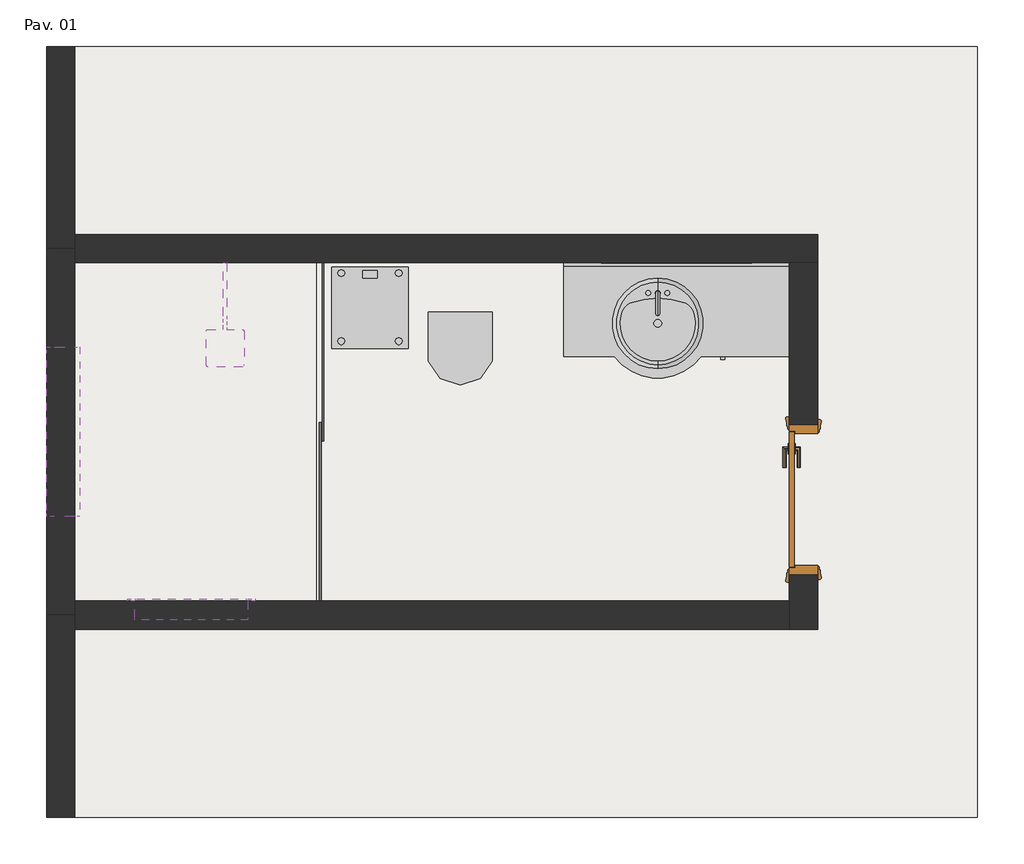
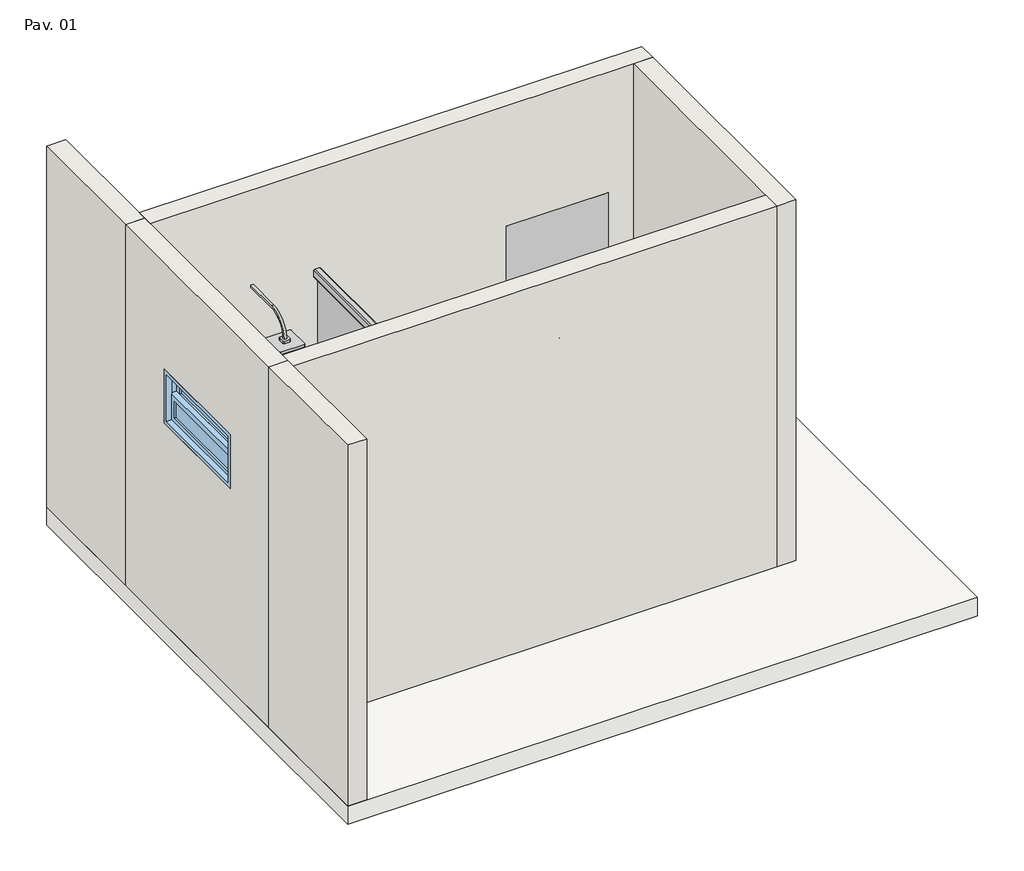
# One storey, incomplete: 6 walls, 4 proxies, 2 flow terminals, 2 slabs, 1 door, 1 furniture element, 1 window.
"""IFC4 building model written with IfcOpenShell, lengths in millimetres."""

from ifc_helpers import new_model, si_unit, frame, origin, place, context, project, spatial, polyline, outline, extrude, faceted_brep, transform, mapped, element, save
from components import specialty_equipment_e6a92e30, generic_models_6948a14a, generic_models_0adf56fe, box_banheiro_box_banheiro_1_80m_x_2_10m_d8e99c4d, porta_simples_0_70_x_2_10_61f2850b, flow_terminal_424f6e85, type_1_46168cfa, l500xr700_7699340b, janela_0_90_x_0_45_486027e7

model = new_model("IFC4")

# Units and contexts
model_context = context("Model", 3, world=origin())
ifc_project = project(units=[si_unit("LENGTHUNIT", "METRE", prefix="MILLI")], contexts=[model_context])

# Site, building, storey
site = spatial("IfcSite", under=ifc_project)
building = spatial("IfcBuilding", under=site)
storey = spatial("IfcBuildingStorey", under=building, Name="Pav. 01", Elevation=0.0)

# Proxies
placement = place(None, origin())
specialty_equipment_shape = specialty_equipment_e6a92e30(model_context)
element("IfcBuildingElementProxy", 1, Name="Balança de Banheiro : Bathroom scales", ObjectType="Balança de Banheiro : Bathroom scales", at=placement, inside=storey, context=model_context, shape_type="MappedRepresentation", body=[
    mapped(specialty_equipment_shape, transform((-777.3409713, 260.9958364, 0.0), x_axis=(1.0, 0.0, 0.0), y_axis=(0.0, 1.0, 0.0), z_axis=(0.0, 0.0, 1.0))),
])
generic_models_shape = generic_models_6948a14a(model_context)
element("IfcBuildingElementProxy", 2, Name="Espelho 01 : Espelho 0,80 x 1", ObjectType="Espelho 01 : Espelho 0,80 x 1", at=placement, inside=storey, context=model_context, shape_type="MappedRepresentation", body=[
    mapped(generic_models_shape, transform((1489.363349, 575.9958364, -406.7594958), x_axis=(-1.0, 0.0, 0.0), y_axis=(0.0, -1.0, 0.0), z_axis=(0.0, 0.0, 1.0))),
])
generic_models_2_shape = generic_models_0adf56fe(model_context)
element("IfcBuildingElementProxy", 3, Name="Nicho Banheiro : Nicho 0,60 x 0,80", ObjectType="Nicho Banheiro : Nicho 0,60 x 0,80", at=placement, inside=storey, context=model_context, shape_type="MappedRepresentation", body=[
    mapped(generic_models_2_shape, transform((-1852.3409713, -1374.0041636, -176.9003653), x_axis=(1.0, 0.0, 0.0), y_axis=(0.0, 1.0, 0.0), z_axis=(0.0, 0.0, 1.0))),
])
box_banheiro_box_banheiro_1_80m_x_2_10m_shape = box_banheiro_box_banheiro_1_80m_x_2_10m_d8e99c4d(model_context)
element("IfcBuildingElementProxy", 4, Name="Box Banheiro : Box Banheiro 1,80m x 2,10m", ObjectType="Box Banheiro : Box Banheiro 1,80m x 2,10m", at=placement, inside=storey, context=model_context, shape_type="MappedRepresentation", body=[
    mapped(box_banheiro_box_banheiro_1_80m_x_2_10m_shape, transform((-1034.8409713, -399.0041636, 0.0), x_axis=(0.0, 1.0000000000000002, 0.0), y_axis=(-1.0000000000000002, 0.0, 0.0), z_axis=(0.0, 0.0, 1.0))),
])

# Door
porta_simples_0_70_x_2_10_shape = porta_simples_0_70_x_2_10_61f2850b(model_context)
element("IfcDoor", 5, ObjectType="Porta Simples : 0,70 x 2,10", at=placement, inside=storey, context=model_context, shape_type="MappedRepresentation", body=[
    mapped(porta_simples_0_70_x_2_10_shape, transform((1527.6590287, -634.0041636, 0.0), x_axis=(0.0, -1.0, 0.0), y_axis=(1.0, 0.0, 0.0), z_axis=(0.0, 0.0, 1.0))),
])

# Flow terminals
flow_terminal_shape = flow_terminal_424f6e85(model_context)
element("IfcFlowTerminal", 6, ObjectType="Deca_Shared_Assento_P.707 : Assento termofixo slow close e easy clean - Branco GE17", at=placement, inside=storey, context=model_context, shape_type="MappedRepresentation", body=[
    mapped(flow_terminal_shape, transform((-297.4306038, 238.4948233, 405.0), x_axis=(1.0, 0.0, 0.0), y_axis=(0.0, 0.0, 1.0), z_axis=(0.0, -1.0, 0.0))),
])
type_1_shape = type_1_46168cfa(model_context)
element("IfcFlowTerminal", 7, ObjectType="Chuveiro Quadrado 20mm : Type 1", at=placement, inside=storey, context=model_context, shape_type="MappedRepresentation", body=[
    mapped(type_1_shape, transform((-1422.3409713, 425.9958364, 0.0), x_axis=(-1.0, 0.0, 0.0), y_axis=(0.0, -1.0, 0.0), z_axis=(0.0, 0.0, 1.0))),
])

# Furniture
l500xr700_shape = l500xr700_7699340b(model_context)
element("IfcFurniture", 8, ObjectType="Gabinete Banheiro Vanity 2621 : L500xR700", at=placement, inside=storey, context=model_context, shape_type="MappedRepresentation", body=[
    mapped(l500xr700_shape, transform((657.7213237, 500.9958364, 0.0), x_axis=(1.0, 0.0, 0.0), y_axis=(0.0, 1.0, 0.0), z_axis=(0.0, 0.0, 1.0))),
])

# Slabs
element("IfcSlab", 9, ObjectType="Piso 0,12", at=placement, inside=storey, context=model_context, shape_type="SweptSolid", body=[
    extrude(outline(polyline([(-1062.3409713, 500.9958364), (-1062.3409713, -1299.0041636), (-2347.3409713, -1299.0041636), (-2347.3409713, 500.9958364), (-1062.3409713, 500.9958364)])), frame((0.0, 0.0, -150.0), z_axis=(0.0, 0.0, 1.0), x_axis=(1.0, 0.0, 0.0)), (0.0, 0.0, 1.0), 120.0),
])
element("IfcSlab", 10, ObjectType="Piso 0,15m", at=placement, inside=storey, context=model_context, shape_type="SweptSolid", body=[
    extrude(outline(polyline([(2452.6590287, 1650.9958364), (2452.6590287, -2449.0041636), (-2497.3409713, -2449.0041636), (-2497.3409713, 1650.9958364), (2452.6590287, 1650.9958364)]), holes=[polyline([(-1062.3409713, 500.9958364), (-2347.3409713, 500.9958364), (-2347.3409713, -1299.0041636), (-1062.3409713, -1299.0041636), (-1062.3409713, 500.9958364)])]), frame((0.0, 0.0, -150.0), z_axis=(0.0, 0.0, 1.0), x_axis=(1.0, 0.0, 0.0)), (0.0, 0.0, 1.0), 150.0),
])

# Walls
element("IfcWall", 11, ObjectType="Parde 0,15m - Banheiro", at=placement, inside=storey, context=model_context, shape_type="Brep", body=[
    faceted_brep([(-2347.3409713, -1374.0041636, 0.0), (-2347.3409713, -1299.0041636, 0.0), (-2347.3409713, 500.9958364, 0.0), (-2347.3409713, 575.9958364, 0.0), (-2347.3409713, 575.9958364, 3000.0), (-2347.3409713, 500.9958364, 3000.0), (-2347.3409713, -1299.0041636, 3000.0), (-2347.3409713, -1374.0041636, 3000.0), (-2347.3409713, -849.0041636, 2119.05), (-2347.3409713, 50.9958364, 2119.05), (-2347.3409713, 50.9958364, 1669.05), (-2347.3409713, -849.0041636, 1669.05), (-2497.3409713, -1374.0041636, 0.0), (-2497.3409713, -1374.0041636, 3000.0), (-2497.3409713, 575.9958364, 3000.0), (-2497.3409713, 575.9958364, 0.0), (-2497.3409713, -849.0041636, 2119.05), (-2497.3409713, -849.0041636, 1669.05), (-2497.3409713, 50.9958364, 1669.05), (-2497.3409713, 50.9958364, 2119.05)], [[[0, 1, 2, 3, 4, 5, 6, 7], [8, 9, 10, 11]], [[12, 13, 14, 15], [16, 17, 18, 19]], [[3, 2, 1, 0, 12, 15]], [[4, 3, 15, 14]], [[7, 6, 5, 4, 14, 13]], [[0, 7, 13, 12]], [[17, 16, 8, 11]], [[18, 17, 11, 10]], [[19, 18, 10, 9]], [[16, 19, 9, 8]]]),
])
element("IfcWall", 12, ObjectType="Parde 0,15m - Banheiro", at=placement, inside=storey, context=model_context, shape_type="Brep", body=[
    faceted_brep([(-2347.3409713, 500.9958364, 0.0), (1452.6590287, 500.9958364, 0.0), (1602.6590287, 500.9958364, 0.0), (1602.6590287, 500.9958364, 3000.0), (1452.6590287, 500.9958364, 3000.0), (-2347.3409713, 500.9958364, 3000.0), (-2347.3409713, 650.9958364, 0.0), (-2347.3409713, 650.9958364, 3000.0), (1602.6590287, 650.9958364, 3000.0), (1602.6590287, 650.9958364, 0.0), (-2347.3409713, 575.9958364, 0.0), (-2347.3409713, 575.9958364, 3000.0)], [[[0, 1, 2, 3, 4, 5]], [[6, 7, 8, 9]], [[2, 1, 0, 10, 6, 9]], [[5, 4, 3, 8, 7, 11]], [[3, 2, 9, 8]], [[0, 5, 11, 7, 6, 10]]]),
])
element("IfcWall", 13, ObjectType="Parde 0,15m - Banheiro", at=placement, inside=storey, context=model_context, shape_type="Brep", body=[
    faceted_brep([(1452.6590287, -1449.0041636, 3000.0), (1452.6590287, -1299.0041636, 3000.0), (1452.6590287, 500.9958364, 3000.0), (1452.6590287, 500.9958364, 0.0), (1452.6590287, -359.0041636, 0.0), (1452.6590287, -359.0041636, 2150.0), (1452.6590287, -1159.0041636, 2150.0), (1452.6590287, -1159.0041636, 0.0), (1452.6590287, -1299.0041636, 0.0), (1452.6590287, -1449.0041636, 0.0), (1602.6590287, 500.9958364, 3000.0), (1602.6590287, -1449.0041636, 3000.0), (1602.6590287, -1449.0041636, 0.0), (1602.6590287, -1159.0041636, 0.0), (1602.6590287, -1159.0041636, 2150.0), (1602.6590287, -359.0041636, 2150.0), (1602.6590287, -359.0041636, 0.0), (1602.6590287, 500.9958364, 0.0)], [[[0, 1, 2, 3, 4, 5, 6, 7, 8, 9]], [[10, 11, 12, 13, 14, 15, 16, 17]], [[3, 17, 16, 4]], [[12, 9, 8, 7, 13]], [[2, 1, 0, 11, 10]], [[3, 2, 10, 17]], [[0, 9, 12, 11]], [[15, 5, 4, 16]], [[6, 14, 13, 7]], [[5, 15, 14, 6]]]),
])
element("IfcWall", 14, ObjectType="Parde 0,15m - Banheiro", at=placement, inside=storey, context=model_context, shape_type="Brep", body=[
    faceted_brep([(1452.6590287, -1299.0041636, 0.0), (-2347.3409713, -1299.0041636, 0.0), (-2347.3409713, -1299.0041636, 3000.0), (1452.6590287, -1299.0041636, 3000.0), (-2027.3409713, -1299.0041636, 2040.0), (-2027.3409713, -1299.0041636, 1240.0), (-1427.3409713, -1299.0041636, 1240.0), (-1427.3409713, -1299.0041636, 2040.0), (1452.6590287, -1449.0041636, 0.0), (1452.6590287, -1449.0041636, 3000.0), (-2347.3409713, -1449.0041636, 3000.0), (-2347.3409713, -1449.0041636, 0.0), (-2347.3409713, -1374.0041636, 0.0), (-2347.3409713, -1374.0041636, 3000.0), (-2027.3409713, -1399.0041636, 2040.0), (-1427.3409713, -1399.0041636, 2040.0), (-1427.3409713, -1399.0041636, 1240.0), (-2027.3409713, -1399.0041636, 1240.0)], [[[0, 1, 2, 3], [4, 5, 6, 7]], [[8, 9, 10, 11]], [[1, 0, 8, 11, 12]], [[3, 2, 13, 10, 9]], [[0, 3, 9, 8]], [[2, 1, 12, 11, 10, 13]], [[14, 15, 16, 17]], [[14, 17, 5, 4]], [[17, 16, 6, 5]], [[16, 15, 7, 6]], [[15, 14, 4, 7]]]),
])
element("IfcWall", 15, ObjectType="Parde 0,15m", at=placement, inside=storey, context=model_context, shape_type="Brep", body=[
    faceted_brep([(-2497.3409713, -1374.0041636, 0.0), (-2497.3409713, -2449.0041636, 0.0), (-2497.3409713, -2449.0041636, 3000.0), (-2497.3409713, -1374.0041636, 3000.0), (-2347.3409713, -1374.0041636, 0.0), (-2347.3409713, -1374.0041636, 3000.0), (-2347.3409713, -1449.0041636, 3000.0), (-2347.3409713, -2449.0041636, 3000.0), (-2347.3409713, -2449.0041636, 0.0), (-2347.3409713, -1449.0041636, 0.0)], [[[0, 1, 2, 3]], [[4, 5, 6, 7, 8, 9]], [[1, 0, 4, 9, 8]], [[2, 1, 8, 7]], [[3, 2, 7, 6, 5]], [[0, 3, 5, 4]]]),
])
element("IfcWall", 16, ObjectType="Parde 0,15m", at=placement, inside=storey, context=model_context, shape_type="Brep", body=[
    faceted_brep([(-2497.3409713, 1650.9958364, 0.0), (-2497.3409713, 575.9958364, 0.0), (-2497.3409713, 575.9958364, 3000.0), (-2497.3409713, 1650.9958364, 3000.0), (-2347.3409713, 1650.9958364, 0.0), (-2347.3409713, 1650.9958364, 3000.0), (-2347.3409713, 650.9958364, 3000.0), (-2347.3409713, 575.9958364, 3000.0), (-2347.3409713, 575.9958364, 0.0), (-2347.3409713, 650.9958364, 0.0)], [[[0, 1, 2, 3]], [[4, 5, 6, 7, 8, 9]], [[1, 0, 4, 9, 8]], [[2, 1, 8, 7]], [[3, 2, 7, 6, 5]], [[0, 3, 5, 4]]]),
])

# Window
janela_0_90_x_0_45_shape = janela_0_90_x_0_45_486027e7(model_context)
element("IfcWindow", 17, ObjectType="Janela Deslizar Foha Dupla : Janela 0,90 x 0,45", at=placement, inside=storey, context=model_context, shape_type="MappedRepresentation", body=[
    mapped(janela_0_90_x_0_45_shape, transform((-2422.3409713, -399.0041636, 754.65), x_axis=(0.0, -1.0, 0.0), y_axis=(1.0, 0.0, 0.0), z_axis=(0.0, 0.0, 1.0))),
])

save(model, "model.ifc")
